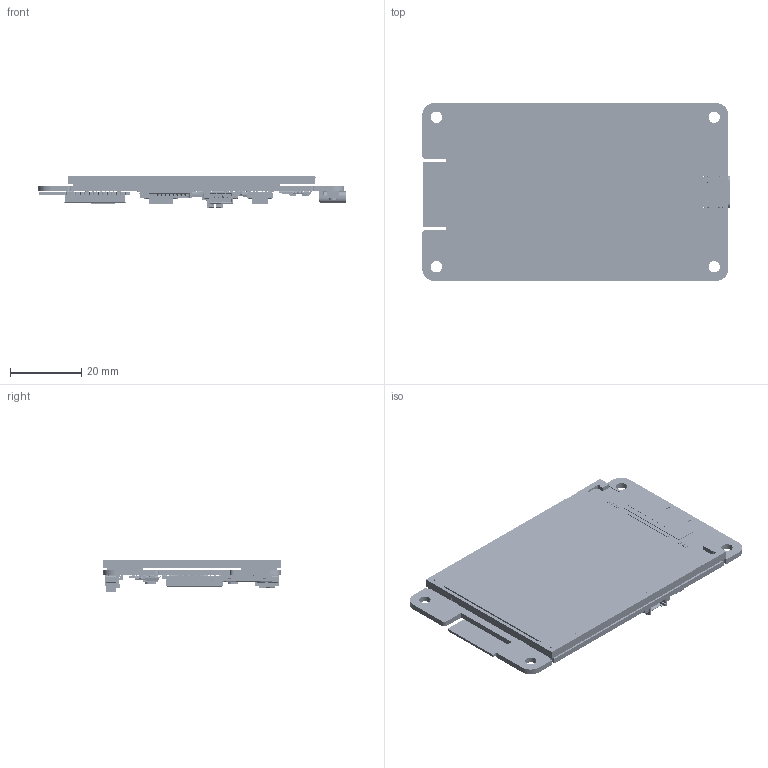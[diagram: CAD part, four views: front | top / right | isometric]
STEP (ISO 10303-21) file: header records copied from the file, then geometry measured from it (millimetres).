
FILE_DESCRIPTION(('Open CASCADE Model'),'2;1');
FILE_NAME('Open CASCADE Shape Model','2024-08-31T11:22:48',('Author'),( 'Open CASCADE'),'Open CASCADE STEP processor 6.8','Open CASCADE 6.8' ,'Unknown');
FILE_SCHEMA(('AUTOMOTIVE_DESIGN { 1 0 10303 214 1 1 1 1 }'));
Length unit declared in the file: millimetre
Products named in the file (382): PCB; Board; Open CASCADE STEP translator 6.8 1.1.1; Open CASCADE STEP translator 6.8 1.1.1.1; U2; ESP32-WROOM-32E_20210903; ESP32-WROOM-32E_20210903.STEP; PCB_ESP32-WROOM-32E_V1(2)^PCB_ESP32-WROOM-32E_V1.STEP; DesignRootModel^PCB_ESP32-WROOM-32E_V1(2)_PCB_ESP32-WROOM-32E_V1.STEP; Submodel-SLP48_5X5_part^DesignRootModel_PCB_ESP32-WROOM-32E_V1(2)_PCB_
ESP32-WROOM-32E_V1.STEP; ESP32_5x5_20210301.STEP^Submodel-SLP48_5X5_part_DesignRootModel_PCB_
ESP32-WROOM-32E_V1(2)_PCB_ESP32-WROOM-32E_V1.STEP; ESP32_5x5_20210301.STEP^ESP32_5x5_20210301.STEP_Submodel-SLP48_5X5_
part_DesignRootModel_PCB_ESP32-WROOM-32E_V1(2)_PCB_ESP32-WROOM-32E_
V1.STEP; Submodel-ANT_L_TYPEA_1501846164_part^DesignRootModel_PCB_
ESP32-WROOM-32E_V1(2)_PCB_ESP32-WROOM-32E_V1.STEP; trace_1^Submodel-ANT_L_TYPEA_1501846164_part_DesignRootModel_PCB_
ESP32-WROOM-32E_V1(2)_PCB_ESP32-WROOM-32E_V1.STEP; Submodel-SOD882_part^DesignRootModel_PCB_ESP32-WROOM-32E_V1(2)_PCB_
ESP32-WROOM-32E_V1.STEP; DFN1006.STEP^Submodel-SOD882_part_DesignRootModel_PCB_ESP32-WROOM-32E_
V1(2)_PCB_ESP32-WROOM-32E_V1.STEP; DFN1006.STEP^DFN1006.STEP_Submodel-SOD882_part_DesignRootModel_PCB_
ESP32-WROOM-32E_V1(2)_PCB_ESP32-WROOM-32E_V1.STEP; Submodel-R0201_part^DesignRootModel_PCB_ESP32-WROOM-32E_V1(2)_PCB_
ESP32-WROOM-32E_V1.STEP; R0201_20210301.STEP^Submodel-R0201_part_DesignRootModel_PCB_
ESP32-WROOM-32E_V1(2)_PCB_ESP32-WROOM-32E_V1.STEP; R0201_20210301.STEP^R0201_20210301.STEP_Submodel-R0201_part_
DesignRootModel_PCB_ESP32-WROOM-32E_V1(2)_PCB_ESP32-WROOM-32E_V1.STEP; Submodel-R0201_part^DesignRootModel_PCB_ESP32-WROOM-32E_V1(2)_PCB_
ESP32-WROOM-32E_V1-1.STEP; R0201_20210301.STEP^Submodel-R0201_part_DesignRootModel_PCB_
ESP32-WROOM-32E_V1(2)_PCB_ESP32-WROOM-32E_V1-1.STEP; Submodel-R0201_part^DesignRootModel_PCB_ESP32-WROOM-32E_V1(2)_PCB_
ESP32-WROOM-32E_V1-2.STEP; R0201_20210301.STEP^Submodel-R0201_part_DesignRootModel_PCB_
ESP32-WROOM-32E_V1(2)_PCB_ESP32-WROOM-32E_V1-2.STEP; Submodel-L0201_part^DesignRootModel_PCB_ESP32-WROOM-32E_V1(2)_PCB_
ESP32-WROOM-32E_V1.STEP; L0201_20210301.STEP^Submodel-L0201_part_DesignRootModel_PCB_
ESP32-WROOM-32E_V1(2)_PCB_ESP32-WROOM-32E_V1.STEP; L0201_20210301.STEP^L0201_20210301.STEP_Submodel-L0201_part_
DesignRootModel_PCB_ESP32-WROOM-32E_V1(2)_PCB_ESP32-WROOM-32E_V1.STEP; Submodel-L0201_part^DesignRootModel_PCB_ESP32-WROOM-32E_V1(2)_PCB_
ESP32-WROOM-32E_V1-1.STEP; L0201_20210301.STEP^Submodel-L0201_part_DesignRootModel_PCB_
ESP32-WROOM-32E_V1(2)_PCB_ESP32-WROOM-32E_V1-1.STEP; Submodel-C0201_part^DesignRootModel_PCB_ESP32-WROOM-32E_V1(2)_PCB_
ESP32-WROOM-32E_V1.STEP; C0201_20210301.STEP^Submodel-C0201_part_DesignRootModel_PCB_
ESP32-WROOM-32E_V1(2)_PCB_ESP32-WROOM-32E_V1.STEP; C0201_20210301.STEP^C0201_20210301.STEP_Submodel-C0201_part_
DesignRootModel_PCB_ESP32-WROOM-32E_V1(2)_PCB_ESP32-WROOM-32E_V1.STEP; Submodel-C0201_part^DesignRootModel_PCB_ESP32-WROOM-32E_V1(2)_PCB_
ESP32-WROOM-32E_V1-1.STEP; C0201_20210301.STEP^Submodel-C0201_part_DesignRootModel_PCB_
ESP32-WROOM-32E_V1(2)_PCB_ESP32-WROOM-32E_V1-1.STEP; Submodel-C0201_part^DesignRootModel_PCB_ESP32-WROOM-32E_V1(2)_PCB_
ESP32-WROOM-32E_V1-2.STEP; C0201_20210301.STEP^Submodel-C0201_part_DesignRootModel_PCB_
ESP32-WROOM-32E_V1(2)_PCB_ESP32-WROOM-32E_V1-2.STEP; Submodel-C0201_part^DesignRootModel_PCB_ESP32-WROOM-32E_V1(2)_PCB_
ESP32-WROOM-32E_V1-3.STEP; C0201_20210301.STEP^Submodel-C0201_part_DesignRootModel_PCB_
ESP32-WROOM-32E_V1(2)_PCB_ESP32-WROOM-32E_V1-3.STEP; Submodel-C0201_part^DesignRootModel_PCB_ESP32-WROOM-32E_V1(2)_PCB_
ESP32-WROOM-32E_V1-4.STEP; C0201_20210301.STEP^Submodel-C0201_part_DesignRootModel_PCB_
ESP32-WROOM-32E_V1(2)_PCB_ESP32-WROOM-32E_V1-4.STEP ...
Assembly tree (503 placements, depth 9):
  PCB
    Board
      Open CASCADE STEP translator 6.8 1.1.1
        Open CASCADE STEP translator 6.8 1.1.1.1
    U2
      ESP32-WROOM-32E_20210903
        ESP32-WROOM-32E_20210903.STEP
          PCB_ESP32-WROOM-32E_V1(2)^PCB_ESP32-WROOM-32E_V1.STEP
            DesignRootModel^PCB_ESP32-WROOM-32E_V1(2)_PCB_ESP32-WROOM-32E_V1.STEP
              Submodel-SLP48_5X5_part^DesignRootModel_PCB_ESP32-WROOM-32E_V1(2)_PCB_
ESP32-WROOM-32E_V1.STEP
                ESP32_5x5_20210301.STEP^Submodel-SLP48_5X5_part_DesignRootModel_PCB_
ESP32-WROOM-32E_V1(2)_PCB_ESP32-WROOM-32E_V1.STEP
                  ESP32_5x5_20210301.STEP^ESP32_5x5_20210301.STEP_Submodel-SLP48_5X5_
part_DesignRootModel_PCB_ESP32-WROOM-32E_V1(2)_PCB_ESP32-WROOM-32E_
V1.STEP
              Submodel-ANT_L_TYPEA_1501846164_part^DesignRootModel_PCB_
ESP32-WROOM-32E_V1(2)_PCB_ESP32-WROOM-32E_V1.STEP
                trace_1^Submodel-ANT_L_TYPEA_1501846164_part_DesignRootModel_PCB_
ESP32-WROOM-32E_V1(2)_PCB_ESP32-WROOM-32E_V1.STEP
              Submodel-SOD882_part^DesignRootModel_PCB_ESP32-WROOM-32E_V1(2)_PCB_
ESP32-WROOM-32E_V1.STEP
                DFN1006.STEP^Submodel-SOD882_part_DesignRootModel_PCB_ESP32-WROOM-32E_
V1(2)_PCB_ESP32-WROOM-32E_V1.STEP
                  DFN1006.STEP^DFN1006.STEP_Submodel-SOD882_part_DesignRootModel_PCB_
ESP32-WROOM-32E_V1(2)_PCB_ESP32-WROOM-32E_V1.STEP
              Submodel-R0201_part^DesignRootModel_PCB_ESP32-WROOM-32E_V1(2)_PCB_
ESP32-WROOM-32E_V1.STEP
                R0201_20210301.STEP^Submodel-R0201_part_DesignRootModel_PCB_
ESP32-WROOM-32E_V1(2)_PCB_ESP32-WROOM-32E_V1.STEP
                  R0201_20210301.STEP^R0201_20210301.STEP_Submodel-R0201_part_
DesignRootModel_PCB_ESP32-WROOM-32E_V1(2)_PCB_ESP32-WROOM-32E_V1.STEP
              Submodel-R0201_part^DesignRootModel_PCB_ESP32-WROOM-32E_V1(2)_PCB_
ESP32-WROOM-32E_V1-1.STEP
                R0201_20210301.STEP^Submodel-R0201_part_DesignRootModel_PCB_
ESP32-WROOM-32E_V1(2)_PCB_ESP32-WROOM-32E_V1-1.STEP
                  R0201_20210301.STEP^R0201_20210301.STEP_Submodel-R0201_part_
DesignRootModel_PCB_ESP32-WROOM-32E_V1(2)_PCB_ESP32-WROOM-32E_V1.STEP
              Submodel-R0201_part^DesignRootModel_PCB_ESP32-WROOM-32E_V1(2)_PCB_
ESP32-WROOM-32E_V1-2.STEP
                R0201_20210301.STEP^Submodel-R0201_part_DesignRootModel_PCB_
ESP32-WROOM-32E_V1(2)_PCB_ESP32-WROOM-32E_V1-2.STEP
                  R0201_20210301.STEP^R0201_20210301.STEP_Submodel-R0201_part_
DesignRootModel_PCB_ESP32-WROOM-32E_V1(2)_PCB_ESP32-WROOM-32E_V1.STEP
              Submodel-L0201_part^DesignRootModel_PCB_ESP32-WROOM-32E_V1(2)_PCB_
ESP32-WROOM-32E_V1.STEP
                L0201_20210301.STEP^Submodel-L0201_part_DesignRootModel_PCB_
ESP32-WROOM-32E_V1(2)_PCB_ESP32-WROOM-32E_V1.STEP
                  L0201_20210301.STEP^L0201_20210301.STEP_Submodel-L0201_part_
DesignRootModel_PCB_ESP32-WROOM-32E_V1(2)_PCB_ESP32-WROOM-32E_V1.STEP
              Submodel-L0201_part^DesignRootModel_PCB_ESP32-WROOM-32E_V1(2)_PCB_
ESP32-WROOM-32E_V1-1.STEP
                L0201_20210301.STEP^Submodel-L0201_part_DesignRootModel_PCB_
ESP32-WROOM-32E_V1(2)_PCB_ESP32-WROOM-32E_V1-1.STEP
                  L0201_20210301.STEP^L0201_20210301.STEP_Submodel-L0201_part_
DesignRootModel_PCB_ESP32-WROOM-32E_V1(2)_PCB_ESP32-WROOM-32E_V1.STEP
              Submodel-C0201_part^DesignRootModel_PCB_ESP32-WROOM-32E_V1(2)_PCB_
ESP32-WROOM-32E_V1.STEP
                C0201_20210301.STEP^Submodel-C0201_part_DesignRootModel_PCB_
ESP32-WROOM-32E_V1(2)_PCB_ESP32-WROOM-32E_V1.STEP
                  C0201_20210301.STEP^C0201_20210301.STEP_Submodel-C0201_part_
DesignRootModel_PCB_ESP32-WROOM-32E_V1(2)_PCB_ESP32-WROOM-32E_V1.STEP
              Submodel-C0201_part^DesignRootModel_PCB_ESP32-WROOM-32E_V1(2)_PCB_
ESP32-WROOM-32E_V1-1.STEP
                C0201_20210301.STEP^Submodel-C0201_part_DesignRootModel_PCB_
ESP32-WROOM-32E_V1(2)_PCB_ESP32-WROOM-32E_V1-1.STEP
                  C0201_20210301.STEP^C0201_20210301.STEP_Submodel-C0201_part_
DesignRootModel_PCB_ESP32-WROOM-32E_V1(2)_PCB_ESP32-WROOM-32E_V1.STEP
              Submodel-C0201_part^DesignRootModel_PCB_ESP32-WROOM-32E_V1(2)_PCB_
ESP32-WROOM-32E_V1-2.STEP
                C0201_20210301.STEP^Submodel-C0201_part_DesignRootModel_PCB_
ESP32-WROOM-32E_V1(2)_PCB_ESP32-WROOM-32E_V1-2.STEP
                  C0201_20210301.STEP^C0201_20210301.STEP_Submodel-C0201_part_
DesignRootModel_PCB_ESP32-WROOM-32E_V1(2)_PCB_ESP32-WROOM-32E_V1.STEP
              Submodel-C0201_part^DesignRootModel_PCB_ESP32-WROOM-32E_V1(2)_PCB_
ESP32-WROOM-32E_V1-3.STEP
                C0201_20210301.STEP^Submodel-C0201_part_DesignRootModel_PCB_
ESP32-WROOM-32E_V1(2)_PCB_ESP32-WROOM-32E_V1-3.STEP
                  C0201_20210301.STEP^C0201_20210301.STEP_Submodel-C0201_part_
DesignRootModel_PCB_ESP32-WROOM-32E_V1(2)_PCB_ESP32-WROOM-32E_V1.STEP
              Submodel-C0201_part^DesignRootModel_PCB_ESP32-WROOM-32E_V1(2)_PCB_
ESP32-WROOM-32E_V1-4.STEP
                C0201_20210301.STEP^Submodel-C0201_part_DesignRootModel_PCB_
ESP32-WROOM-32E_V1(2)_PCB_ESP32-WROOM-32E_V1-4.STEP
                  C0201_20210301.STEP^C0201_20210301.STEP_Submodel-C0201_part_
DesignRootModel_PCB_ESP32-WROOM-32E_V1(2)_PCB_ESP32-WROOM-32E_V1.STEP
              Submodel-C0201_part^DesignRootModel_PCB_ESP32-WROOM-32E_V1(2)_PCB_
ESP32-WROOM-32E_V1-5.STEP
                C0201_20210301.STEP^Submodel-C0201_part_DesignRootModel_PCB_
ESP32-WROOM-32E_V1(2)_PCB_ESP32-WROOM-32E_V1-5.STEP
                  C0201_20210301.STEP^C0201_20210301.STEP_Submodel-C0201_part_
DesignRootModel_PCB_ESP32-WROOM-32E_V1(2)_PCB_ESP32-WROOM-32E_V1.STEP
              Submodel-C0201_part^DesignRootModel_PCB_ESP32-WROOM-32E_V1(2)_PCB_
ESP32-WROOM-32E_V1-6.STEP
                C0201_20210301.STEP^Submodel-C0201_part_DesignRootModel_PCB_
ESP32-WROOM-32E_V1(2)_PCB_ESP32-WROOM-32E_V1-6.STEP
                  C0201_20210301.STEP^C0201_20210301.STEP_Submodel-C0201_part_
DesignRootModel_PCB_ESP32-WROOM-32E_V1(2)_PCB_ESP32-WROOM-32E_V1.STEP
              Submodel-C0201_part^DesignRootModel_PCB_ESP32-WROOM-32E_V1(2)_PCB_
ESP32-WROOM-32E_V1-7.STEP
                C0201_20210301.STEP^Submodel-C0201_part_DesignRootModel_PCB_
ESP32-WROOM-32E_V1(2)_PCB_ESP32-WROOM-32E_V1-7.STEP
                  C0201_20210301.STEP^C0201_20210301.STEP_Submodel-C0201_part_
DesignRootModel_PCB_ESP32-WROOM-32E_V1(2)_PCB_ESP32-WROOM-32E_V1.STEP
              Submodel-C0201_part^DesignRootModel_PCB_ESP32-WROOM-32E_V1(2)_PCB_
ESP32-WROOM-32E_V1-8.STEP
                C0201_20210301.STEP^Submodel-C0201_part_DesignRootModel_PCB_
ESP32-WROOM-32E_V1(2)_PCB_ESP32-WROOM-32E_V1-8.STEP
                  C0201_20210301.STEP^C0201_20210301.STEP_Submodel-C0201_part_
DesignRootModel_PCB_ESP32-WROOM-32E_V1(2)_PCB_ESP32-WROOM-32E_V1.STEP
              Submodel-C0201_part^DesignRootModel_PCB_ESP32-WROOM-32E_V1(2)_PCB_
ESP32-WROOM-32E_V1-9.STEP
Bounding box: 86.37 x 50 x 9.1 mm (x, y, z)
Volume: 15989.5 mm3; surface area: 27928.3 mm2
Topology: 796 solids, 1713 shells, 16263 faces, 43085 edges, 29449 vertices
Faces by surface type: plane 9613, bspline 3537, cylinder 2737, sphere 362, torus 7, cone 7
Full cylindrical faces by diameter (mm): 1 x2, 3.2 x4
Entity records: 295503 total; most frequent: CARTESIAN_POINT 91547, ORIENTED_EDGE 34328, DIRECTION 32870, EDGE_CURVE 19716, LINE 14998, VECTOR 14998, VERTEX_POINT 14571, AXIS2_PLACEMENT_3D 8936
